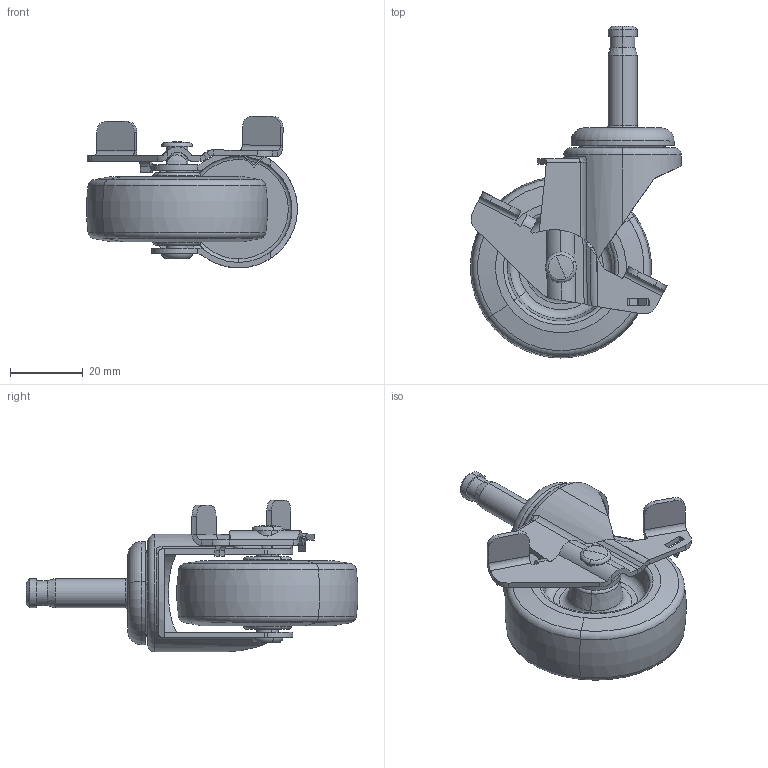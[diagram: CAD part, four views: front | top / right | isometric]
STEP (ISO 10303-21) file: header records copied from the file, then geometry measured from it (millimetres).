
FILE_DESCRIPTION (( 'STEP AP214' ), '1' );
FILE_NAME ('20162-202-52 脣裝价陬.STEP', '2019-12-10T00:13:37', ( 'Owner' ), ( 'Organization' ), 'SwSTEP 2.0', 'SolidWorks 2014', '' );
FILE_SCHEMA (( 'AUTOMOTIVE_DESIGN' ));
Length unit declared in the file: millimetre
Products named in the file (7): 20162-202-52 脣裝价陬; 202-52; 200-03A 詩俖; 200-25 脣裝耳8x28; 260A-14A 耜价; 202A-12A; 20炵蹈 价陬穩隊
Assembly tree (6 placements, depth 2):
  20162-202-52 脣裝价陬
    200-25 脣裝耳8x28
    200-03A 詩俖
    202A-12A
    260A-14A 耜价
    20炵蹈 价陬穩隊
    202-52
Bounding box: 58.1 x 91.49 x 41.88 mm (x, y, z)
Volume: 37509.8 mm3; surface area: 19680.7 mm2
Topology: 7 solids, 7 shells, 244 faces, 574 edges, 349 vertices
Faces by surface type: plane 88, cylinder 73, torus 51, cone 20, bspline 8, sphere 4
Entity records: 7888 total; most frequent: CARTESIAN_POINT 2022, DIRECTION 1219, ORIENTED_EDGE 1144, EDGE_CURVE 572, AXIS2_PLACEMENT_3D 484, VERTEX_POINT 348, EDGE_LOOP 260, VECTOR 251
